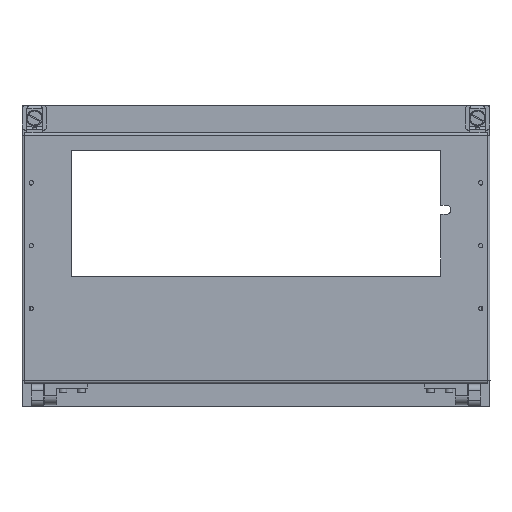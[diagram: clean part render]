
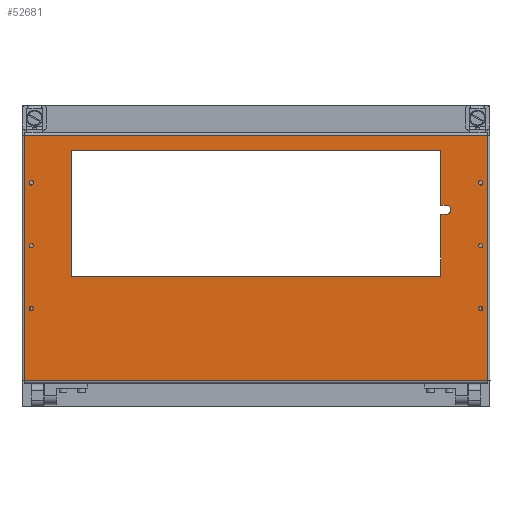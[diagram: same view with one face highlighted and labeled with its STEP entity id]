
A CAD part, front view. The second image highlights one B-rep face of the part: STEP entity #52681.
In plain terms, the highlighted planar face has unit normal (0, -1, 0).
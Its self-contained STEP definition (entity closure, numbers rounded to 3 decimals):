
#5060=LINE($,#99929,#8512);
#5062=LINE($,#99935,#8514);
#5066=LINE($,#99943,#8518);
#5069=LINE($,#99949,#8521);
#5072=LINE($,#99953,#8524);
#5076=LINE($,#99965,#8528);
#5078=LINE($,#99968,#8530);
#5085=LINE($,#99991,#8537);
#5086=LINE($,#99993,#8538);
#5087=LINE($,#99995,#8539);
#5088=LINE($,#99996,#8540);
#8512=VECTOR($,#68335,2.511);
#8514=VECTOR($,#68339,2.235);
#8518=VECTOR($,#68345,15.);
#8521=VECTOR($,#68350,5.12);
#8524=VECTOR($,#68355,15.);
#8528=VECTOR($,#68367,0.227);
#8530=VECTOR($,#68371,0.227);
#8537=VECTOR($,#68392,18.818);
#8538=VECTOR($,#68393,9.981);
#8539=VECTOR($,#68394,18.818);
#8540=VECTOR($,#68395,9.981);
#11258=PLANE($,#56836);
#11796=FACE_BOUND($,#17706,.T.);
#11797=FACE_BOUND($,#17707,.T.);
#11798=FACE_BOUND($,#17708,.T.);
#11799=FACE_BOUND($,#17709,.T.);
#11800=FACE_BOUND($,#17710,.T.);
#11801=FACE_BOUND($,#17711,.T.);
#11802=FACE_BOUND($,#17712,.T.);
#11803=FACE_BOUND($,#17713,.T.);
#17706=EDGE_LOOP($,(#45658));
#17707=EDGE_LOOP($,(#45659));
#17708=EDGE_LOOP($,(#45660));
#17709=EDGE_LOOP($,(#45661));
#17710=EDGE_LOOP($,(#45662));
#17711=EDGE_LOOP($,(#45663));
#17712=EDGE_LOOP($,(#45664,#45665,#45666,#45667,#45668,#45669,#45670,#45671));
#17713=EDGE_LOOP($,(#45672,#45673,#45674,#45675));
#19465=CIRCLE($,#56804,0.089);
#19467=CIRCLE($,#56807,0.089);
#19469=CIRCLE($,#56810,0.089);
#19471=CIRCLE($,#56813,0.089);
#19473=CIRCLE($,#56816,0.089);
#19475=CIRCLE($,#56819,0.089);
#19477=CIRCLE($,#56827,0.188);
#24404=VERTEX_POINT($,#99894);
#24406=VERTEX_POINT($,#99899);
#24408=VERTEX_POINT($,#99904);
#24410=VERTEX_POINT($,#99909);
#24412=VERTEX_POINT($,#99914);
#24414=VERTEX_POINT($,#99919);
#24415=VERTEX_POINT($,#99922);
#24418=VERTEX_POINT($,#99927);
#24419=VERTEX_POINT($,#99931);
#24421=VERTEX_POINT($,#99934);
#24424=VERTEX_POINT($,#99942);
#24426=VERTEX_POINT($,#99948);
#24429=VERTEX_POINT($,#99958);
#24430=VERTEX_POINT($,#99960);
#24433=VERTEX_POINT($,#99973);
#24439=VERTEX_POINT($,#99990);
#24440=VERTEX_POINT($,#99992);
#24441=VERTEX_POINT($,#99994);
#31622=EDGE_CURVE($,#24404,#24404,#19465,.T.);
#31624=EDGE_CURVE($,#24406,#24406,#19467,.T.);
#31626=EDGE_CURVE($,#24408,#24408,#19469,.T.);
#31628=EDGE_CURVE($,#24410,#24410,#19471,.T.);
#31630=EDGE_CURVE($,#24412,#24412,#19473,.T.);
#31632=EDGE_CURVE($,#24414,#24414,#19475,.T.);
#31636=EDGE_CURVE($,#24415,#24418,#5060,.T.);
#31638=EDGE_CURVE($,#24421,#24419,#5062,.T.);
#31642=EDGE_CURVE($,#24424,#24421,#5066,.T.);
#31645=EDGE_CURVE($,#24426,#24424,#5069,.T.);
#31648=EDGE_CURVE($,#24418,#24426,#5072,.T.);
#31651=EDGE_CURVE($,#24430,#24429,#19477,.T.);
#31654=EDGE_CURVE($,#24419,#24430,#5076,.T.);
#31656=EDGE_CURVE($,#24429,#24415,#5078,.T.);
#31667=EDGE_CURVE($,#24439,#24433,#5085,.T.);
#31668=EDGE_CURVE($,#24440,#24433,#5086,.T.);
#31669=EDGE_CURVE($,#24440,#24441,#5087,.T.);
#31670=EDGE_CURVE($,#24441,#24439,#5088,.T.);
#45658=ORIENTED_EDGE($,*,*,#31622,.T.);
#45659=ORIENTED_EDGE($,*,*,#31624,.T.);
#45660=ORIENTED_EDGE($,*,*,#31626,.T.);
#45661=ORIENTED_EDGE($,*,*,#31628,.T.);
#45662=ORIENTED_EDGE($,*,*,#31630,.T.);
#45663=ORIENTED_EDGE($,*,*,#31632,.T.);
#45664=ORIENTED_EDGE($,*,*,#31651,.T.);
#45665=ORIENTED_EDGE($,*,*,#31656,.T.);
#45666=ORIENTED_EDGE($,*,*,#31636,.T.);
#45667=ORIENTED_EDGE($,*,*,#31648,.T.);
#45668=ORIENTED_EDGE($,*,*,#31645,.T.);
#45669=ORIENTED_EDGE($,*,*,#31642,.T.);
#45670=ORIENTED_EDGE($,*,*,#31638,.T.);
#45671=ORIENTED_EDGE($,*,*,#31654,.T.);
#45672=ORIENTED_EDGE($,*,*,#31667,.T.);
#45673=ORIENTED_EDGE($,*,*,#31668,.F.);
#45674=ORIENTED_EDGE($,*,*,#31669,.T.);
#45675=ORIENTED_EDGE($,*,*,#31670,.T.);
#52681=ADVANCED_FACE($,(#11796,#11797,#11798,#11799,#11800,#11801,#11802,
#11803),#11258,.T.);
#56804=AXIS2_PLACEMENT_3D($,#99895,#68298,#68299);
#56807=AXIS2_PLACEMENT_3D($,#99900,#68304,#68305);
#56810=AXIS2_PLACEMENT_3D($,#99905,#68310,#68311);
#56813=AXIS2_PLACEMENT_3D($,#99910,#68316,#68317);
#56816=AXIS2_PLACEMENT_3D($,#99915,#68322,#68323);
#56819=AXIS2_PLACEMENT_3D($,#99920,#68328,#68329);
#56827=AXIS2_PLACEMENT_3D($,#99961,#68361,#68362);
#56836=AXIS2_PLACEMENT_3D($,#99989,#68390,#68391);
#68298=DIRECTION('center_axis',(0.,1.,0.));
#68299=DIRECTION('ref_axis',(1.,0.,0.));
#68304=DIRECTION('center_axis',(0.,1.,0.));
#68305=DIRECTION('ref_axis',(1.,0.,0.));
#68310=DIRECTION('center_axis',(0.,1.,0.));
#68311=DIRECTION('ref_axis',(1.,0.,0.));
#68316=DIRECTION('center_axis',(0.,1.,0.));
#68317=DIRECTION('ref_axis',(1.,0.,0.));
#68322=DIRECTION('center_axis',(0.,1.,0.));
#68323=DIRECTION('ref_axis',(1.,0.,0.));
#68328=DIRECTION('center_axis',(0.,1.,0.));
#68329=DIRECTION('ref_axis',(1.,0.,0.));
#68335=DIRECTION($,(0.,0.,-1.));
#68339=DIRECTION($,(0.,0.,-1.));
#68345=DIRECTION($,(1.,0.,0.));
#68350=DIRECTION($,(0.,0.,1.));
#68355=DIRECTION($,(-1.,0.,0.));
#68361=DIRECTION('center_axis',(0.,1.,0.));
#68362=DIRECTION('ref_axis',(0.,0.,
-1.));
#68367=DIRECTION($,(1.,0.,0.));
#68371=DIRECTION($,(-1.,0.,0.));
#68390=DIRECTION('center_axis',(0.,-1.,0.));
#68391=DIRECTION('ref_axis',(1.,0.,0.));
#68392=DIRECTION($,(-1.,0.,0.));
#68393=DIRECTION($,(0.,0.,1.));
#68394=DIRECTION($,(1.,0.,0.));
#68395=DIRECTION($,(0.,0.,1.));
#99894=CARTESIAN_POINT('',(0.463,-2.025,6.529));
#99895=CARTESIAN_POINT('Origin',(0.375,-2.025,6.529));
#99899=CARTESIAN_POINT('',(18.713,-2.025,3.979));
#99900=CARTESIAN_POINT('Origin',(18.625,-2.025,3.979));
#99904=CARTESIAN_POINT('',(0.463,-2.025,9.079));
#99905=CARTESIAN_POINT('Origin',(0.375,-2.025,9.079));
#99909=CARTESIAN_POINT('',(18.713,-2.025,9.079));
#99910=CARTESIAN_POINT('Origin',(18.625,-2.025,9.079));
#99914=CARTESIAN_POINT('',(18.713,-2.025,6.529));
#99915=CARTESIAN_POINT('Origin',(18.625,-2.025,6.529));
#99919=CARTESIAN_POINT('',(0.463,-2.025,3.979));
#99920=CARTESIAN_POINT('Origin',(0.375,-2.025,3.979));
#99922=CARTESIAN_POINT('',(17.,-2.025,7.798));
#99927=CARTESIAN_POINT('',(17.,-2.025,5.288));
#99929=CARTESIAN_POINT($,(17.,-2.025,7.101));
#99931=CARTESIAN_POINT('',(17.,-2.025,8.173));
#99934=CARTESIAN_POINT('',(17.,-2.025,10.408));
#99935=CARTESIAN_POINT($,(17.,-2.025,7.101));
#99942=CARTESIAN_POINT('',(2.,-2.025,10.408));
#99943=CARTESIAN_POINT($,(13.25,-2.025,10.408));
#99948=CARTESIAN_POINT('',(2.,-2.025,5.288));
#99949=CARTESIAN_POINT($,(2.,-2.025,8.218));
#99953=CARTESIAN_POINT($,(5.75,-2.025,5.288));
#99958=CARTESIAN_POINT('',(17.227,-2.025,7.798));
#99960=CARTESIAN_POINT('',(17.227,-2.025,8.173));
#99961=CARTESIAN_POINT('Origin',(17.227,-2.025,7.986));
#99965=CARTESIAN_POINT($,(13.363,-2.025,8.173));
#99968=CARTESIAN_POINT($,(13.25,-2.025,7.798));
#99973=CARTESIAN_POINT('',(0.091,-2.025,11.02));
#99989=CARTESIAN_POINT('Origin',(9.5,-2.025,6.029));
#99990=CARTESIAN_POINT('',(18.909,-2.025,11.02));
#99991=CARTESIAN_POINT($,(4.75,-2.025,11.02));
#99992=CARTESIAN_POINT('',(0.091,-2.025,1.039));
#99993=CARTESIAN_POINT($,(0.091,-2.025,1.858));
#99994=CARTESIAN_POINT('',(18.909,-2.025,1.039));
#99995=CARTESIAN_POINT($,(14.25,-2.025,1.039));
#99996=CARTESIAN_POINT($,(18.909,-2.025,8.57));
